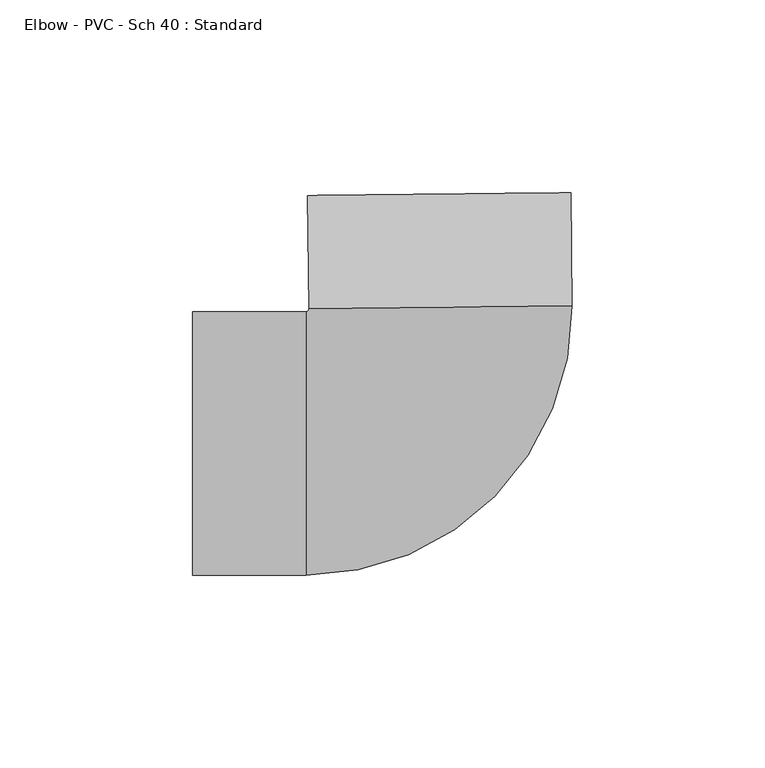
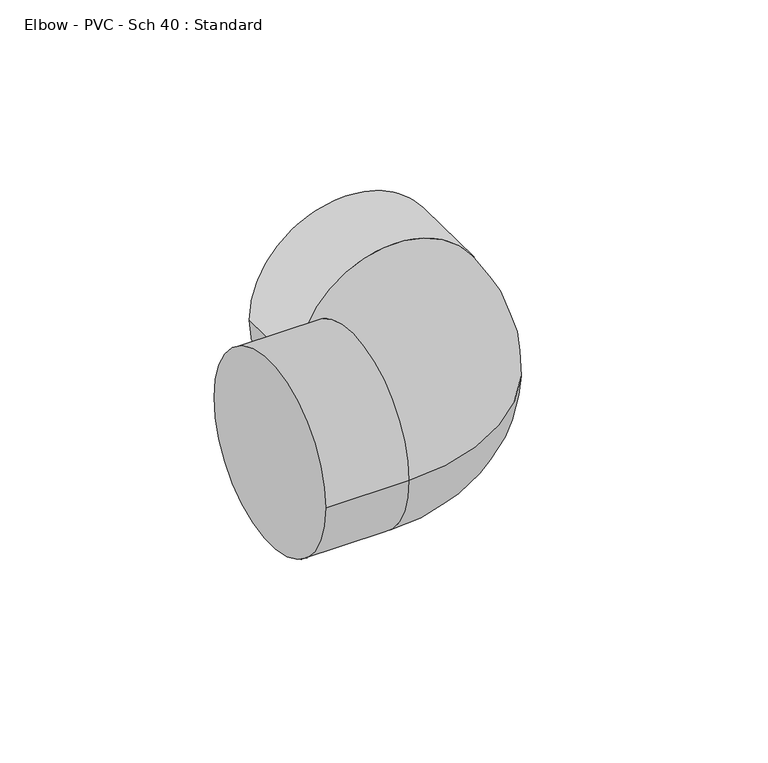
"""IFC4 building model written with IfcOpenShell, lengths in millimetres: pipe fitting geometry, Elbow - PVC - Sch 40 : Standard."""

from ifc_helpers import new_model, si_unit, point, frame, origin, place, context, project, spatial, circle_curve, ellipse_curve, trimmed, source, transform, mapped, element, save
from ifc_brep_helpers import plane_surface, cylinder_surface, revolved_surface, advanced_brep


def elbow_pvc_sch_40_standard_39e3f0c3(model_context):
    return source(origin(), model_context, "Body", "AdvancedBrep", [
        advanced_brep(
        [(-64.6595133, -34.1376, 0.0), (-64.6595133, 34.1376, 0.0), (-35.2971133, -34.1376, 0.0), (-35.2971133, 34.1376, 0.0), (-34.5034064, 34.9396178, 0.0), (33.7680897, 35.6507792, 0.0), (33.462248, 65.0115863, 0.0), (-34.8092481, 64.3004249, 0.0)],
        [
            (0, 1, circle_curve(frame((-64.6595133, 0.0, 0.0), z_axis=(-1.0, 0.0, 0.0), x_axis=(0.0, 1.0, 0.0)), 34.1376)),
            (1, 0, circle_curve(frame((-64.6595133, 0.0, 0.0), z_axis=(-1.0, 0.0, 0.0), x_axis=(0.0, 1.0, 0.0)), 34.1376)),
            (0, 2),
            (2, 3, circle_curve(frame((-35.2971133, 0.0, 0.0), z_axis=(-1.0, 0.0, 0.0), x_axis=(0.0, 1.0, 0.0)), 34.1376)),
            (3, 1),
            (3, 2, circle_curve(frame((-35.2971133, 0.0, 0.0), z_axis=(-1.0, 0.0, 0.0), x_axis=(0.0, 1.0, 0.0)), 34.1376)),
            (4, 3, circle_curve(frame((-35.2971133, 34.93135, 0.0), z_axis=(0.0, 0.0, -1.0), x_axis=(0.0, -1.0, 0.0)), 0.79375)),
            (2, 5, circle_curve(frame((-35.2971133, 34.93135, 0.0), z_axis=(0.0, 0.0, 1.0), x_axis=(0.0, -1.0, 0.0)), 69.06895)),
            (5, 4, circle_curve(frame((-0.3676583, 35.2951985, 0.0), z_axis=(0.010416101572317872, -0.9999457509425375, 0.0), x_axis=(-0.9999457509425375, -0.010416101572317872, 0.0)), 34.1376)),
            (4, 5, circle_curve(frame((-0.3676583, 35.2951985, 0.0), z_axis=(0.010416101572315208, -0.9999457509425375, 0.0), x_axis=(-0.9999457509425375, -0.010416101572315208, 0.0)), 34.1376)),
            (6, 7, circle_curve(frame((-0.6735001, 64.6560056, 0.0), z_axis=(-0.01041610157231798, 0.9999457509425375, 0.0), x_axis=(-0.9999457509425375, -0.01041610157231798, 0.0)), 34.1376)),
            (7, 6, circle_curve(frame((-0.6735001, 64.6560056, 0.0), z_axis=(-0.01041610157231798, 0.9999457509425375, 0.0), x_axis=(-0.9999457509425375, -0.01041610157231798, 0.0)), 34.1376)),
            (5, 6),
            (7, 4),
        ],
        [
            plane_surface(frame((-64.6595133, 0.0, 0.0), z_axis=(-1.0, 0.0, 0.0), x_axis=(0.0, 0.0, 1.0))),
            cylinder_surface(frame((-64.6595133, 0.0, 0.0), z_axis=(-1.0, 0.0, 0.0), x_axis=(0.0, 1.0, 0.0)), 34.1376),
            revolved_surface(trimmed(ellipse_curve(frame((-35.2971133, 0.0, 0.0), z_axis=(-1.0, 0.0, 0.0), x_axis=(0.0, 1.0, 0.0)), 34.1376, 34.1376), [point((-35.2971133, -34.1376, 0.0))], [point((-35.2971133, 34.1376, 0.0))], True, "CARTESIAN"), (-35.2971133, 34.93135, 0.0), (0.0, 0.0, 1.0)),
            revolved_surface(trimmed(ellipse_curve(frame((-35.2971133, 0.0, 0.0), z_axis=(-1.0, 0.0, 0.0), x_axis=(0.0, 1.0, 0.0)), 34.1376, 34.1376), [point((-35.2971133, 34.1376, 0.0))], [point((-35.2971133, -34.1376, 0.0))], True, "CARTESIAN"), (-35.2971133, 34.93135, 0.0), (0.0, 0.0, 1.0)),
            plane_surface(frame((-0.6735001, 64.6560056, 0.0), z_axis=(-0.01041610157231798, 0.9999457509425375, 0.0), x_axis=(0.0, 0.0, 1.0))),
            cylinder_surface(frame((-0.3676583, 35.2951985, 0.0), z_axis=(0.01041610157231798, -0.9999457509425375, 0.0), x_axis=(-0.9999457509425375, -0.01041610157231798, 0.0)), 34.1376),
        ],
        [
            (0, [[1, 2]]),
            (1, [[-1, 3, 4, 5]]),
            (1, [[-2, -5, 6, -3]]),
            (2, [[7, -4, 8, 9]]),
            (3, [[-8, -6, -7, 10]]),
            (4, [[11, 12]]),
            (5, [[-9, 13, -12, 14]]),
            (5, [[-10, -14, -11, -13]]),
        ],
    ),
    ])


if __name__ == "__main__":
    model = new_model("IFC4")
    model_context = context("Model", 3, world=origin())
    ifc_project = project(units=[si_unit("LENGTHUNIT", "METRE", prefix="MILLI")], contexts=[model_context])
    site = spatial("IfcSite", under=ifc_project)
    building = spatial("IfcBuilding", under=site)
    placement = place(None, origin())
    elbow_pvc_sch_40_standard_shape = elbow_pvc_sch_40_standard_39e3f0c3(model_context)
    element("IfcPipeFitting", 1, ObjectType="Elbow - PVC - Sch 40 : Standard", at=placement, inside=building, context=model_context, shape_type="MappedRepresentation", body=[
        mapped(elbow_pvc_sch_40_standard_shape, transform((0.0, 0.0, 0.0), x_axis=(1.0, 0.0, 0.0), y_axis=(0.0, 1.0, 0.0), z_axis=(0.0, 0.0, 1.0))),
    ])
    save(model, "model.ifc")
